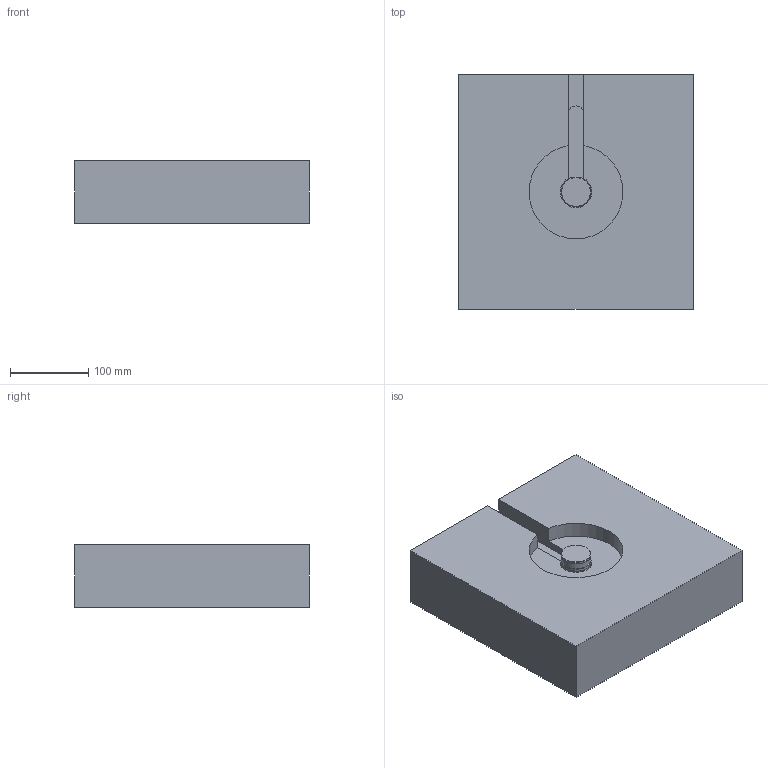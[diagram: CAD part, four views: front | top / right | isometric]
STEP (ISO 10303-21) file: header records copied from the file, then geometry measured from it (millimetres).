
FILE_DESCRIPTION( ( 'STEP AP214' ), '1' );
FILE_NAME( 'D:/PROIECTE_YUDO_2009/PROIECTE YUDO 3D/BIS/YUEU09-BIS18CC075/YUEU09-BIS18CC075.step', '2009-03-12T06:43:59', ( ' ' ), ( ' ' ), 'XStep 1.0', ' ', ' ' );
FILE_SCHEMA( ( 'automotive_design' ) );
Length unit declared in the file: millimetre
Products named in the file (4): 1; 2; 3; 4
Bounding box: 300 x 300 x 80 mm (x, y, z)
Volume: 6916532.2 mm3; surface area: 308097.7 mm2
Topology: 4 solids, 4 shells, 115 faces, 302 edges, 201 vertices
Faces by surface type: plane 57, cylinder 40, cone 10, torus 6, bspline 1, sphere 1
Full cylindrical faces by diameter (mm): 1.7 x2, 14 x1, 17 x1, 18 x2, 18.2 x1, 18.25 x1, 24 x1, 28.62 x1, 32 x1, 37 x1, 38 x2
Entity records: 4502 total; most frequent: CARTESIAN_POINT 779, DIRECTION 572, ORIENTED_EDGE 538, EDGE_CURVE 269, AXIS2_PLACEMENT_3D 221, VERTEX_POINT 196, EDGE_LOOP 157, FACE_OUTER_BOUND 137
